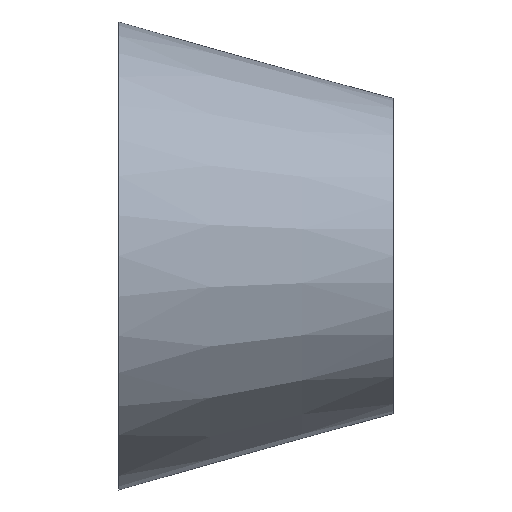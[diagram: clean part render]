
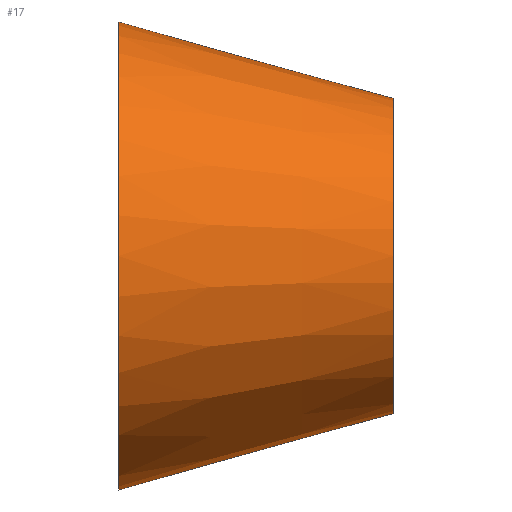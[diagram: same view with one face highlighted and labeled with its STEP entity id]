
A CAD part, front view. The second image highlights one B-rep face of the part: STEP entity #17.
In plain terms, the highlighted conical face has half-angle 15.573 degrees and reference radius 52 mm.
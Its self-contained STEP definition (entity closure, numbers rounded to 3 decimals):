
#17 = ADVANCED_FACE('',(#18),#31,.T.);
#18 = FACE_BOUND('',#19,.T.);
#19 = EDGE_LOOP('',(#20,#54,#74,#101));
#20 = ORIENTED_EDGE('',*,*,#21,.T.);
#21 = EDGE_CURVE('',#22,#22,#24,.T.);
#22 = VERTEX_POINT('',#23);
#23 = CARTESIAN_POINT('',(0.,52.,0.));
#24 = SURFACE_CURVE('',#25,(#30,#42),.PCURVE_S1.);
#25 = CIRCLE('',#26,52.);
#26 = AXIS2_PLACEMENT_3D('',#27,#28,#29);
#27 = CARTESIAN_POINT('',(0.,0.,0.));
#28 = DIRECTION('',(1.,0.,0.));
#29 = DIRECTION('',(0.,1.,0.));
#30 = PCURVE('',#31,#36);
#31 = CONICAL_SURFACE('',#32,52.,0.272);
#32 = AXIS2_PLACEMENT_3D('',#33,#34,#35);
#33 = CARTESIAN_POINT('',(0.,0.,0.));
#34 = DIRECTION('',(-1.,-0.,-0.));
#35 = DIRECTION('',(0.,1.,0.));
#36 = DEFINITIONAL_REPRESENTATION('',(#37),#41);
#37 = LINE('',#38,#39);
#38 = CARTESIAN_POINT('',(-0.,-0.));
#39 = VECTOR('',#40,1.);
#40 = DIRECTION('',(-1.,-0.));
#41 = ( GEOMETRIC_REPRESENTATION_CONTEXT(2) 
PARAMETRIC_REPRESENTATION_CONTEXT() REPRESENTATION_CONTEXT('2D SPACE',''
  ) );
#42 = PCURVE('',#43,#48);
#43 = PLANE('',#44);
#44 = AXIS2_PLACEMENT_3D('',#45,#46,#47);
#45 = CARTESIAN_POINT('',(0.,0.,0.));
#46 = DIRECTION('',(1.,0.,0.));
#47 = DIRECTION('',(0.,1.,0.));
#48 = DEFINITIONAL_REPRESENTATION('',(#49),#53);
#49 = CIRCLE('',#50,52.);
#50 = AXIS2_PLACEMENT_2D('',#51,#52);
#51 = CARTESIAN_POINT('',(0.,0.));
#52 = DIRECTION('',(1.,0.));
#53 = ( GEOMETRIC_REPRESENTATION_CONTEXT(2) 
PARAMETRIC_REPRESENTATION_CONTEXT() REPRESENTATION_CONTEXT('2D SPACE',''
  ) );
#54 = ORIENTED_EDGE('',*,*,#55,.T.);
#55 = EDGE_CURVE('',#22,#56,#58,.T.);
#56 = VERTEX_POINT('',#57);
#57 = CARTESIAN_POINT('',(61.,35.,0.));
#58 = SEAM_CURVE('',#59,(#62,#68),.PCURVE_S1.);
#59 = B_SPLINE_CURVE_WITH_KNOTS('',1,(#60,#61),.UNSPECIFIED.,.F.,.F.,(2,
    2),(0.,1.),.PIECEWISE_BEZIER_KNOTS.);
#60 = CARTESIAN_POINT('',(0.,52.,0.));
#61 = CARTESIAN_POINT('',(61.,35.,0.));
#62 = PCURVE('',#31,#63);
#63 = DEFINITIONAL_REPRESENTATION('',(#64),#67);
#64 = B_SPLINE_CURVE_WITH_KNOTS('',1,(#65,#66),.UNSPECIFIED.,.F.,.F.,(2,
    2),(0.,1.),.PIECEWISE_BEZIER_KNOTS.);
#65 = CARTESIAN_POINT('',(-6.283,0.));
#66 = CARTESIAN_POINT('',(-6.283,-61.));
#67 = ( GEOMETRIC_REPRESENTATION_CONTEXT(2) 
PARAMETRIC_REPRESENTATION_CONTEXT() REPRESENTATION_CONTEXT('2D SPACE',''
  ) );
#68 = PCURVE('',#31,#69);
#69 = DEFINITIONAL_REPRESENTATION('',(#70),#73);
#70 = B_SPLINE_CURVE_WITH_KNOTS('',1,(#71,#72),.UNSPECIFIED.,.F.,.F.,(2,
    2),(0.,1.),.PIECEWISE_BEZIER_KNOTS.);
#71 = CARTESIAN_POINT('',(0.,0.));
#72 = CARTESIAN_POINT('',(0.,-61.));
#73 = ( GEOMETRIC_REPRESENTATION_CONTEXT(2) 
PARAMETRIC_REPRESENTATION_CONTEXT() REPRESENTATION_CONTEXT('2D SPACE',''
  ) );
#74 = ORIENTED_EDGE('',*,*,#75,.F.);
#75 = EDGE_CURVE('',#56,#56,#76,.T.);
#76 = SURFACE_CURVE('',#77,(#82,#89),.PCURVE_S1.);
#77 = CIRCLE('',#78,35.);
#78 = AXIS2_PLACEMENT_3D('',#79,#80,#81);
#79 = CARTESIAN_POINT('',(61.,0.,0.));
#80 = DIRECTION('',(1.,0.,0.));
#81 = DIRECTION('',(0.,1.,0.));
#82 = PCURVE('',#31,#83);
#83 = DEFINITIONAL_REPRESENTATION('',(#84),#88);
#84 = LINE('',#85,#86);
#85 = CARTESIAN_POINT('',(-0.,-61.));
#86 = VECTOR('',#87,1.);
#87 = DIRECTION('',(-1.,-0.));
#88 = ( GEOMETRIC_REPRESENTATION_CONTEXT(2) 
PARAMETRIC_REPRESENTATION_CONTEXT() REPRESENTATION_CONTEXT('2D SPACE',''
  ) );
#89 = PCURVE('',#90,#95);
#90 = PLANE('',#91);
#91 = AXIS2_PLACEMENT_3D('',#92,#93,#94);
#92 = CARTESIAN_POINT('',(61.,0.,0.));
#93 = DIRECTION('',(1.,0.,0.));
#94 = DIRECTION('',(0.,1.,0.));
#95 = DEFINITIONAL_REPRESENTATION('',(#96),#100);
#96 = CIRCLE('',#97,35.);
#97 = AXIS2_PLACEMENT_2D('',#98,#99);
#98 = CARTESIAN_POINT('',(0.,0.));
#99 = DIRECTION('',(1.,0.));
#100 = ( GEOMETRIC_REPRESENTATION_CONTEXT(2) 
PARAMETRIC_REPRESENTATION_CONTEXT() REPRESENTATION_CONTEXT('2D SPACE',''
  ) );
#101 = ORIENTED_EDGE('',*,*,#55,.F.);
